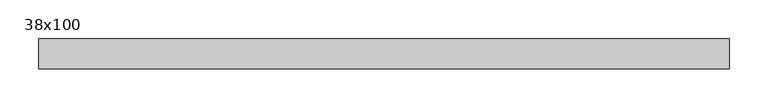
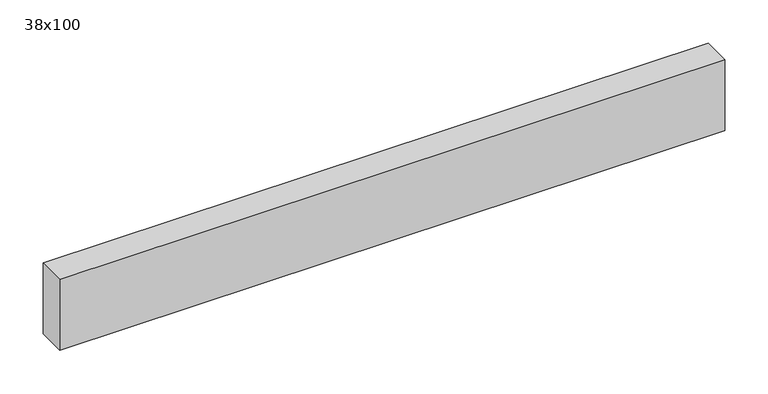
"""IFC4 building model written with IfcOpenShell, lengths in millimetres: beam geometry, Poutre - Bois de construction de dimensions courantes : 38x100."""

from ifc_helpers import new_model, si_unit, frame, origin, place, context, project, spatial, polyline, outline, extrude, source, transform, mapped, element, save


def beam_38x100_cbb0fbc7(model_context):
    return source(origin(), model_context, "Body", "SweptSolid", [
        extrude(outline(polyline([(436.0, 19.05), (436.0, -19.05), (-450.0, -19.05), (-450.0, 19.05), (436.0, 19.05)])), frame((0.0, 0.0, -50.0), z_axis=(0.0, 0.0, 1.0), x_axis=(1.0, 0.0, 0.0)), (0.0, 0.0, 1.0), 100.0),
    ])


if __name__ == "__main__":
    model = new_model("IFC4")
    model_context = context("Model", 3, world=origin())
    ifc_project = project(units=[si_unit("LENGTHUNIT", "METRE", prefix="MILLI")], contexts=[model_context])
    site = spatial("IfcSite", under=ifc_project)
    building = spatial("IfcBuilding", under=site)
    placement = place(None, origin())
    beam_38x100_shape = beam_38x100_cbb0fbc7(model_context)
    element("IfcBeam", 1, ObjectType="Poutre - Bois de construction de dimensions courantes : 38x100", at=placement, inside=building, context=model_context, shape_type="MappedRepresentation", body=[
        mapped(beam_38x100_shape, transform((0.0, 0.0, 0.0), x_axis=(1.0, 0.0, 0.0), y_axis=(0.0, 1.0, 0.0), z_axis=(0.0, 0.0, 1.0))),
    ])
    save(model, "model.ifc")
